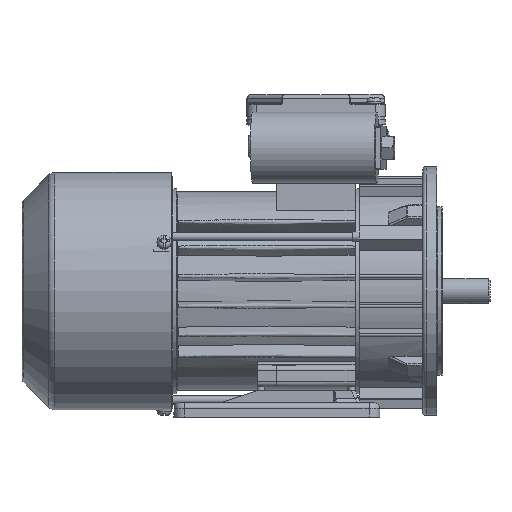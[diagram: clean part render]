
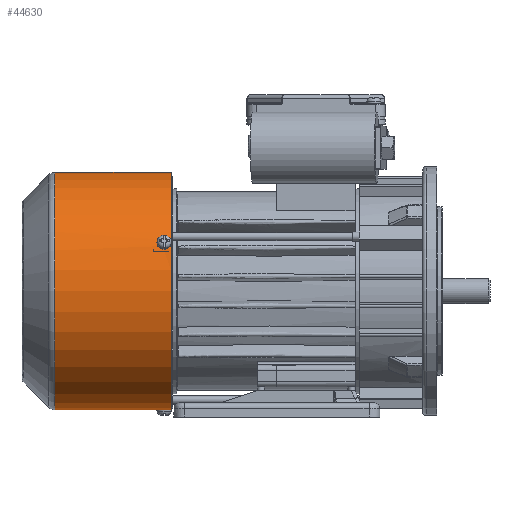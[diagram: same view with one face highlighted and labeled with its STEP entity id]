
A CAD part, left-side view. The second image highlights one B-rep face of the part: STEP entity #44630.
In plain terms, the highlighted cylindrical face has radius 66.8 mm (diameter 133.6 mm), a full revolution.
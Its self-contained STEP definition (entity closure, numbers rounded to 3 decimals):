
#3707=B_SPLINE_CURVE_WITH_KNOTS('',3,(#89624,#89625,#89626,#89627,#89628,
#89629,#89630),.UNSPECIFIED.,.F.,.F.,(4,1,1,1,4),(0.,0.002,
0.004,0.005,0.007),
 .UNSPECIFIED.);
#3708=B_SPLINE_CURVE_WITH_KNOTS('',3,(#89635,#89636,#89637,#89638,#89639,
#89640,#89641),.UNSPECIFIED.,.F.,.F.,(4,1,1,1,4),(0.,0.002,
0.004,0.005,0.007),
 .UNSPECIFIED.);
#3709=B_SPLINE_CURVE_WITH_KNOTS('',3,(#89648,#89649,#89650,#89651,#89652,
#89653,#89654),.UNSPECIFIED.,.F.,.F.,(4,1,1,1,4),(0.,0.002,
0.004,0.005,0.007),
 .UNSPECIFIED.);
#3710=B_SPLINE_CURVE_WITH_KNOTS('',3,(#89659,#89660,#89661,#89662,#89663,
#89664,#89665),.UNSPECIFIED.,.F.,.F.,(4,1,1,1,4),(0.,0.002,
0.004,0.005,0.007),
 .UNSPECIFIED.);
#3711=B_SPLINE_CURVE_WITH_KNOTS('',3,(#89668,#89669,#89670,#89671,#89672,
#89673,#89674,#89675,#89676,#89677,#89678),.UNSPECIFIED.,.T.,.F.,(1,1,1,
1,1,1,1,1,1,1,1,1,1,1,1),(-0.005,-0.004,-0.002,
0.,0.002,0.004,0.005,0.007,
0.009,0.011,0.012,0.014,
0.016,0.018,0.019),.UNSPECIFIED.);
#18590=ORIENTED_EDGE('',*,*,#27326,.T.);
#18591=ORIENTED_EDGE('',*,*,#27327,.T.);
#18592=ORIENTED_EDGE('',*,*,#27328,.T.);
#18593=ORIENTED_EDGE('',*,*,#27329,.F.);
#18594=ORIENTED_EDGE('',*,*,#27330,.T.);
#18595=ORIENTED_EDGE('',*,*,#27331,.T.);
#18596=ORIENTED_EDGE('',*,*,#27332,.T.);
#18597=ORIENTED_EDGE('',*,*,#27333,.T.);
#18598=ORIENTED_EDGE('',*,*,#27334,.T.);
#18599=ORIENTED_EDGE('',*,*,#27335,.F.);
#18600=ORIENTED_EDGE('',*,*,#27336,.T.);
#27326=EDGE_CURVE('',#32430,#32431,#3707,.T.);
#27327=EDGE_CURVE('',#32431,#32432,#35225,.F.);
#27328=EDGE_CURVE('',#32432,#32433,#3708,.T.);
#27329=EDGE_CURVE('',#32430,#32433,#35226,.F.);
#27330=EDGE_CURVE('',#32434,#32434,#35227,.T.);
#27331=EDGE_CURVE('',#32435,#32435,#35228,.T.);
#27332=EDGE_CURVE('',#32436,#32437,#3709,.T.);
#27333=EDGE_CURVE('',#32437,#32438,#35229,.F.);
#27334=EDGE_CURVE('',#32438,#32439,#3710,.T.);
#27335=EDGE_CURVE('',#32436,#32439,#35230,.F.);
#27336=EDGE_CURVE('',#32440,#32440,#3711,.T.);
#32430=VERTEX_POINT('',#89631);
#32431=VERTEX_POINT('',#89632);
#32432=VERTEX_POINT('',#89634);
#32433=VERTEX_POINT('',#89642);
#32434=VERTEX_POINT('',#89645);
#32435=VERTEX_POINT('',#89647);
#32436=VERTEX_POINT('',#89655);
#32437=VERTEX_POINT('',#89656);
#32438=VERTEX_POINT('',#89658);
#32439=VERTEX_POINT('',#89666);
#32440=VERTEX_POINT('',#89679);
#35225=CIRCLE('',#52737,66.8);
#35226=CIRCLE('',#52738,66.8);
#35227=CIRCLE('',#52739,66.8);
#35228=CIRCLE('',#52740,66.8);
#35229=CIRCLE('',#52741,66.8);
#35230=CIRCLE('',#52742,66.8);
#37999=EDGE_LOOP('',(#18590,#18591,#18592,#18593));
#38000=EDGE_LOOP('',(#18594));
#38001=EDGE_LOOP('',(#18595));
#38002=EDGE_LOOP('',(#18596,#18597,#18598,#18599));
#38003=EDGE_LOOP('',(#18600));
#41083=FACE_BOUND('',#37999,.T.);
#41084=FACE_BOUND('',#38000,.T.);
#41085=FACE_BOUND('',#38001,.T.);
#41086=FACE_BOUND('',#38002,.T.);
#41087=FACE_BOUND('',#38003,.T.);
#42463=CYLINDRICAL_SURFACE('',#52736,66.8);
#44630=ADVANCED_FACE('',(#41083,#41084,#41085,#41086,#41087),#42463,.T.);
#52736=AXIS2_PLACEMENT_3D('',#89623,#62069,#62070);
#52737=AXIS2_PLACEMENT_3D('',#89633,#62071,#62072);
#52738=AXIS2_PLACEMENT_3D('',#89643,#62073,#62074);
#52739=AXIS2_PLACEMENT_3D('',#89644,#62075,#62076);
#52740=AXIS2_PLACEMENT_3D('',#89646,#62077,#62078);
#52741=AXIS2_PLACEMENT_3D('',#89657,#62079,#62080);
#52742=AXIS2_PLACEMENT_3D('',#89667,#62081,#62082);
#62069=DIRECTION('',(0.,-1.,0.));
#62070=DIRECTION('',(1.,0.,0.));
#62071=DIRECTION('',(0.,1.,0.));
#62072=DIRECTION('',(0.,0.,1.));
#62073=DIRECTION('',(0.,1.,0.));
#62074=DIRECTION('',(0.,0.,1.));
#62075=DIRECTION('',(0.,-1.,0.));
#62076=DIRECTION('',(1.,0.,0.));
#62077=DIRECTION('',(0.,1.,0.));
#62078=DIRECTION('',(-1.,0.,0.));
#62079=DIRECTION('',(0.,1.,0.));
#62080=DIRECTION('',(0.,0.,1.));
#62081=DIRECTION('',(0.,1.,0.));
#62082=DIRECTION('',(0.,0.,1.));
#89623=CARTESIAN_POINT('',(0.,0.,0.));
#89624=CARTESIAN_POINT('',(-7.827,82.25,-66.34));
#89625=CARTESIAN_POINT('',(-8.418,82.25,-66.27));
#89626=CARTESIAN_POINT('',(-9.572,81.764,-66.115));
#89627=CARTESIAN_POINT('',(-10.3,79.999,-66.));
#89628=CARTESIAN_POINT('',(-9.574,78.238,-66.115));
#89629=CARTESIAN_POINT('',(-8.418,77.75,-66.27));
#89630=CARTESIAN_POINT('',(-7.827,77.75,-66.34));
#89631=CARTESIAN_POINT('',(-7.827,82.25,-66.34));
#89632=CARTESIAN_POINT('',(-7.827,77.75,-66.34));
#89633=CARTESIAN_POINT('',(0.,77.75,0.));
#89634=CARTESIAN_POINT('',(-6.137,77.75,-66.518));
#89635=CARTESIAN_POINT('',(-6.137,77.75,-66.518));
#89636=CARTESIAN_POINT('',(-5.545,77.75,-66.572));
#89637=CARTESIAN_POINT('',(-4.383,78.236,-66.66));
#89638=CARTESIAN_POINT('',(-3.647,80.001,-66.7));
#89639=CARTESIAN_POINT('',(-4.381,81.762,-66.66));
#89640=CARTESIAN_POINT('',(-5.545,82.25,-66.572));
#89641=CARTESIAN_POINT('',(-6.137,82.25,-66.518));
#89642=CARTESIAN_POINT('',(-6.137,82.25,-66.518));
#89643=CARTESIAN_POINT('',(0.,82.25,0.));
#89644=CARTESIAN_POINT('',(0.,84.,0.));
#89645=CARTESIAN_POINT('',(66.8,84.,0.));
#89646=CARTESIAN_POINT('',(0.,18.471,0.));
#89647=CARTESIAN_POINT('',(-66.8,18.471,0.));
#89648=CARTESIAN_POINT('',(-53.538,82.25,39.949));
#89649=CARTESIAN_POINT('',(-53.183,82.25,40.425));
#89650=CARTESIAN_POINT('',(-52.471,81.764,41.347));
#89651=CARTESIAN_POINT('',(-52.008,79.999,41.921));
#89652=CARTESIAN_POINT('',(-52.47,78.238,41.349));
#89653=CARTESIAN_POINT('',(-53.183,77.75,40.425));
#89654=CARTESIAN_POINT('',(-53.538,77.75,39.949));
#89655=CARTESIAN_POINT('',(-53.538,82.25,39.949));
#89656=CARTESIAN_POINT('',(-53.538,77.75,39.949));
#89657=CARTESIAN_POINT('',(0.,77.75,0.));
#89658=CARTESIAN_POINT('',(-54.538,77.75,38.573));
#89659=CARTESIAN_POINT('',(-54.538,77.75,38.573));
#89660=CARTESIAN_POINT('',(-54.881,77.75,38.088));
#89661=CARTESIAN_POINT('',(-55.538,78.236,37.126));
#89662=CARTESIAN_POINT('',(-55.94,80.001,36.508));
#89663=CARTESIAN_POINT('',(-55.539,81.762,37.124));
#89664=CARTESIAN_POINT('',(-54.881,82.25,38.088));
#89665=CARTESIAN_POINT('',(-54.538,82.25,38.573));
#89666=CARTESIAN_POINT('',(-54.538,82.25,38.573));
#89667=CARTESIAN_POINT('',(0.,82.25,0.));
#89668=CARTESIAN_POINT('',(61.724,81.764,25.552));
#89669=CARTESIAN_POINT('',(61.996,80.,24.873));
#89670=CARTESIAN_POINT('',(61.725,78.238,25.551));
#89671=CARTESIAN_POINT('',(61.033,77.507,27.174));
#89672=CARTESIAN_POINT('',(60.291,78.236,28.772));
#89673=CARTESIAN_POINT('',(59.967,80.,29.429));
#89674=CARTESIAN_POINT('',(60.29,81.762,28.774));
#89675=CARTESIAN_POINT('',(61.034,82.493,27.173));
#89676=CARTESIAN_POINT('',(61.724,81.764,25.552));
#89677=CARTESIAN_POINT('',(61.996,80.,24.873));
#89678=CARTESIAN_POINT('',(61.725,78.238,25.551));
#89679=CARTESIAN_POINT('',(61.905,80.,25.099));
